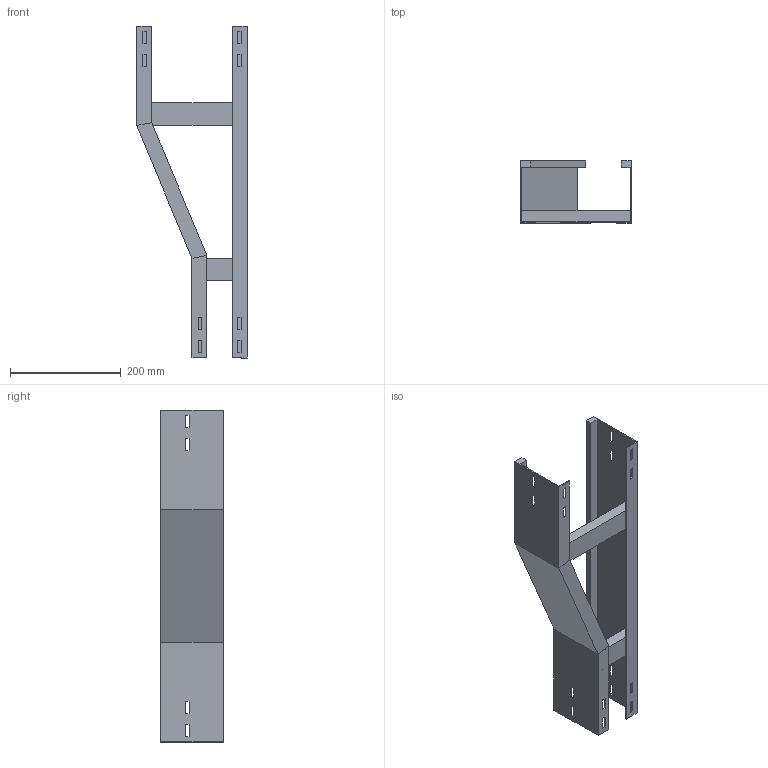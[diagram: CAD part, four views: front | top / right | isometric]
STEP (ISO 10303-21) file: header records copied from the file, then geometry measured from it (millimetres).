
FILE_DESCRIPTION (( 'STEP AP214' ), '1' );
FILE_NAME ('B2X21B1J200XX.step', '2025-09-02T17:16:07', ( '' ), ( '' ), 'SwSTEP 2.0', 'SolidWorks 2023', '' );
FILE_SCHEMA (( 'AUTOMOTIVE_DESIGN' ));
Length unit declared in the file: millimetre
Products named in the file (5): SPONDA RID. DX 200-100_H112.5; TRAVERSINO_200; B2X21B1J200XX; SPONDA DRITTA_H112.5; TRAVERSINO_100
Assembly tree (4 placements, depth 2):
  B2X21B1J200XX
    SPONDA RID. DX 200-100_H112.5
    TRAVERSINO_100
    TRAVERSINO_200
    SPONDA DRITTA_H112.5
Bounding box: 200 x 112.5 x 600 mm (x, y, z)
Volume: 801332 mm3; surface area: 416788 mm2
Topology: 4 solids, 4 shells, 112 faces, 296 edges, 192 vertices
Faces by surface type: plane 112
Entity records: 3590 total; most frequent: CARTESIAN_POINT 607, ORIENTED_EDGE 592, DIRECTION 534, EDGE_CURVE 296, LINE 296, VECTOR 296, VERTEX_POINT 192, EDGE_LOOP 144
